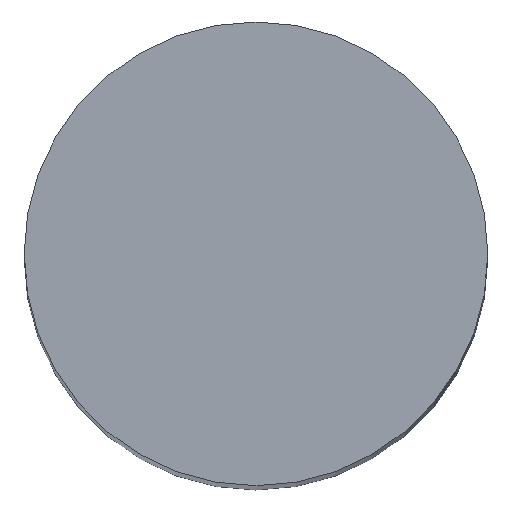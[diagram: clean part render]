
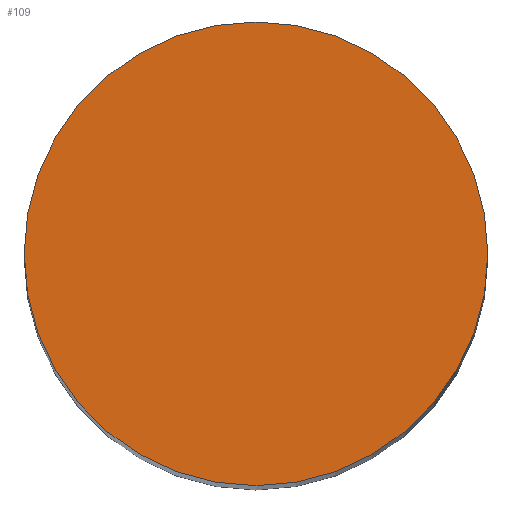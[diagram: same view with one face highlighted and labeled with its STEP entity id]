
A CAD part, top view. The second image highlights one B-rep face of the part: STEP entity #109.
In plain terms, the highlighted planar face has unit normal (0, 0, 1).
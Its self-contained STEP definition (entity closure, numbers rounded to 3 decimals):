
#24 = VERTEX_POINT('',#25);
#25 = CARTESIAN_POINT('',(-47.5,1.,9.));
#32 = CYLINDRICAL_SURFACE('',#33,1.5);
#33 = AXIS2_PLACEMENT_3D('',#34,#35,#36);
#34 = CARTESIAN_POINT('',(-49.,1.,-7.));
#35 = DIRECTION('',(-0.,-0.,-1.));
#36 = DIRECTION('',(1.,0.,0.));
#51 = EDGE_CURVE('',#24,#24,#52,.T.);
#52 = SURFACE_CURVE('',#53,(#58,#65),.PCURVE_S1.);
#53 = CIRCLE('',#54,1.5);
#54 = AXIS2_PLACEMENT_3D('',#55,#56,#57);
#55 = CARTESIAN_POINT('',(-49.,1.,9.));
#56 = DIRECTION('',(0.,0.,1.));
#57 = DIRECTION('',(1.,0.,0.));
#58 = PCURVE('',#32,#59);
#59 = DEFINITIONAL_REPRESENTATION('',(#60),#64);
#60 = LINE('',#61,#62);
#61 = CARTESIAN_POINT('',(-0.,-16.));
#62 = VECTOR('',#63,1.);
#63 = DIRECTION('',(-1.,0.));
#64 = ( GEOMETRIC_REPRESENTATION_CONTEXT(2) 
PARAMETRIC_REPRESENTATION_CONTEXT() REPRESENTATION_CONTEXT('2D SPACE',''
  ) );
#65 = PCURVE('',#66,#71);
#66 = PLANE('',#67);
#67 = AXIS2_PLACEMENT_3D('',#68,#69,#70);
#68 = CARTESIAN_POINT('',(-49.,1.,9.));
#69 = DIRECTION('',(0.,0.,1.));
#70 = DIRECTION('',(1.,0.,-0.));
#71 = DEFINITIONAL_REPRESENTATION('',(#72),#76);
#72 = CIRCLE('',#73,1.5);
#73 = AXIS2_PLACEMENT_2D('',#74,#75);
#74 = CARTESIAN_POINT('',(0.,0.));
#75 = DIRECTION('',(1.,0.));
#76 = ( GEOMETRIC_REPRESENTATION_CONTEXT(2) 
PARAMETRIC_REPRESENTATION_CONTEXT() REPRESENTATION_CONTEXT('2D SPACE',''
  ) );
#109 = ADVANCED_FACE('',(#110),#66,.T.);
#110 = FACE_BOUND('',#111,.T.);
#111 = EDGE_LOOP('',(#112));
#112 = ORIENTED_EDGE('',*,*,#51,.T.);
